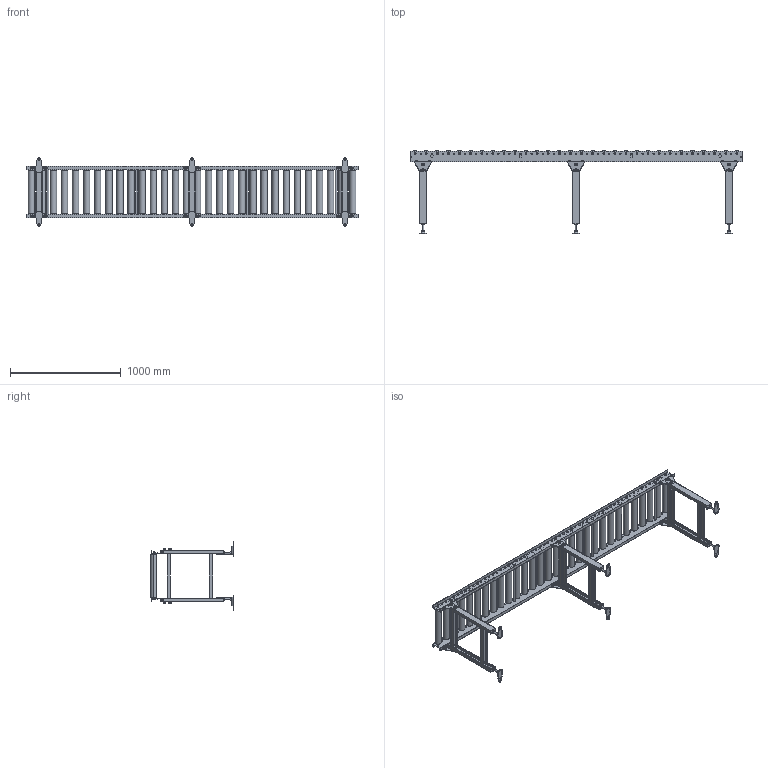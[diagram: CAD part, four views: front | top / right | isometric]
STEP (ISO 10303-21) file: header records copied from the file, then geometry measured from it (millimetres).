
FILE_DESCRIPTION (( 'STEP AP214' ), '1' );
FILE_NAME ('JR-5714-400-100-3000.STEP', '2022-09-27T07:01:03', ( '' ), ( '' ), 'SwSTEP 2.0', 'SolidWorks 2017', '' );
FILE_SCHEMA (( 'AUTOMOTIVE_DESIGN' ));
Length unit declared in the file: millimetre
Products named in the file (1): JR-5714-400-100-3000
Bounding box: 2994 x 750 x 614 mm (x, y, z)
Volume: 35123526.4 mm3; surface area: 5968970.8 mm2
Topology: 16 solids, 16 shells, 2492 faces, 6138 edges, 3964 vertices
Faces by surface type: plane 1503, cylinder 965, cone 12, bspline 12
Entity records: 103515 total; most frequent: CARTESIAN_POINT 14269, DIRECTION 13348, ORIENTED_EDGE 12276, EDGE_CURVE 6138, AXIS2_PLACEMENT_3D 4783, VERTEX_POINT 3964, LINE 3782, VECTOR 3782
